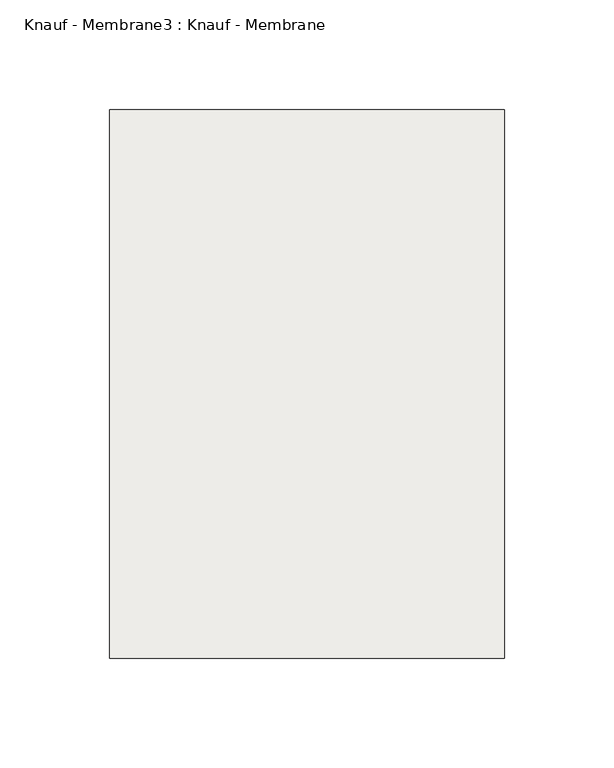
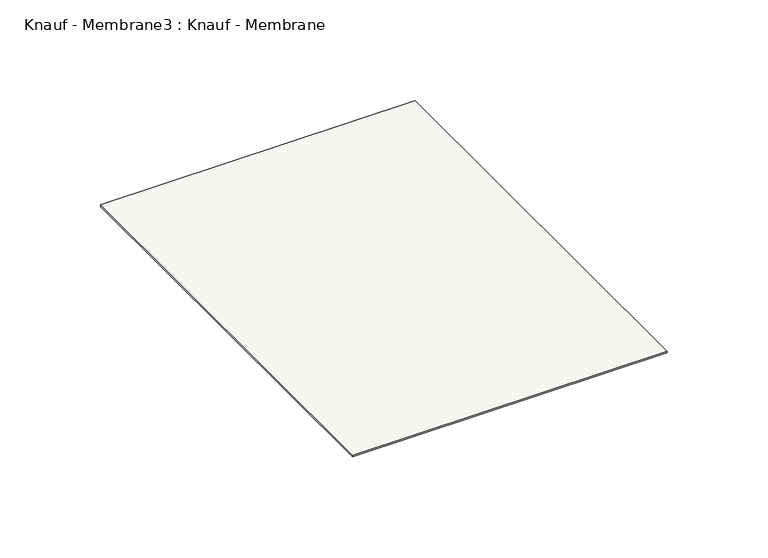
"""IFC4 building model written with IfcOpenShell, lengths in millimetres: slab geometry, Knauf - Membrane3 : Knauf - Membrane."""

from ifc_helpers import new_model, si_unit, frame, origin, place, context, project, spatial, polyline, outline, extrude, source, transform, mapped, element, save


def knauf_membrane3_knauf_membrane_7219526e(model_context):
    return source(origin(), model_context, "Body", "SweptSolid", [
        extrude(outline(polyline([(19756.285179, 16176.9464372), (19756.285179, 15926.9464372), (19576.285179, 15926.9464372), (19576.285179, 16176.9464372), (19756.285179, 16176.9464372)])), frame((0.0, 0.0, -20.0), z_axis=(0.0, 0.0, 1.0), x_axis=(1.0, 0.0, 0.0)), (0.0, 0.0, 1.0), 1.0),
    ])


if __name__ == "__main__":
    model = new_model("IFC4")
    model_context = context("Model", 3, world=origin())
    ifc_project = project(units=[si_unit("LENGTHUNIT", "METRE", prefix="MILLI")], contexts=[model_context])
    site = spatial("IfcSite", under=ifc_project)
    building = spatial("IfcBuilding", under=site)
    placement = place(None, origin())
    knauf_membrane3_knauf_membrane_shape = knauf_membrane3_knauf_membrane_7219526e(model_context)
    element("IfcSlab", 1, ObjectType="Knauf - Membrane3 : Knauf - Membrane", at=placement, inside=building, context=model_context, shape_type="MappedRepresentation", body=[
        mapped(knauf_membrane3_knauf_membrane_shape, transform((0.0, 0.0, 0.0), x_axis=(1.0, 0.0, 0.0), y_axis=(0.0, 1.0, 0.0), z_axis=(0.0, 0.0, 1.0))),
    ])
    save(model, "model.ifc")
